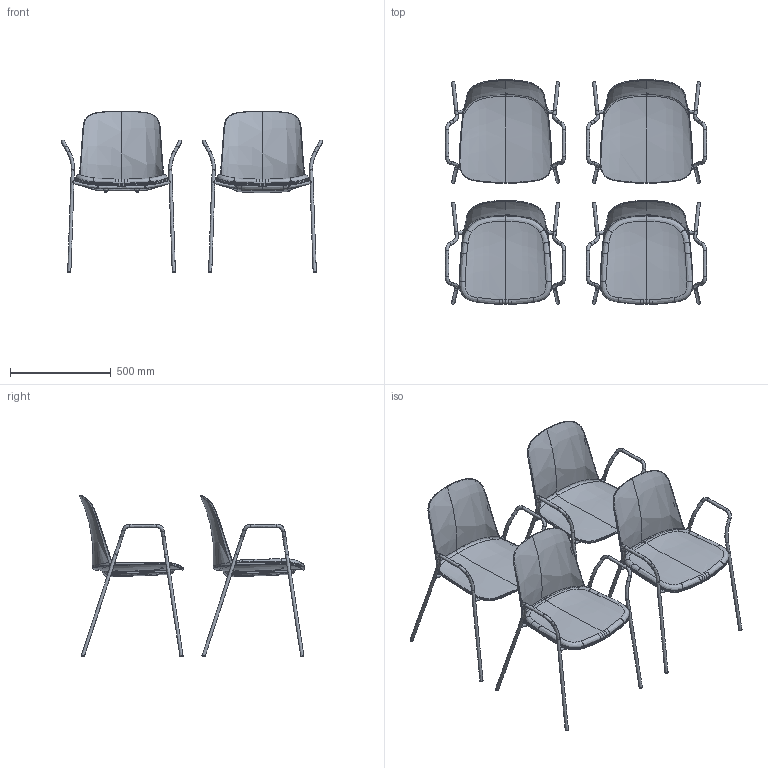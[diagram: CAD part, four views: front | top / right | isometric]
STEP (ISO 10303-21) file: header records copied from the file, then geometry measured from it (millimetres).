
FILE_DESCRIPTION(/* description */ (''),/* implementation_level */ '2;1');
FILE_NAME(/* name */ 'UNIX4G~2',/* time_stamp */ '2025-01-24T13:58:24+01:00',/* author */ (''),/* organization */ (''),/* preprocessor_version */ 'ST-DEVELOPER v16.5',/* originating_system */ '',/* authorisation */ '');
FILE_SCHEMA (('AUTOMOTIVE_DESIGN'));
Products named in the file (1): Document
Bounding box: 1296.86 x 1115.45 x 803.27 mm (x, y, z)
Volume: 12974260.2 mm3; surface area: 5073777.4 mm2
Topology: 24 solids, 83 shells, 2029 faces, 4578 edges, 2647 vertices
Faces by surface type: bspline 1809, plane 220
Entity records: 247414 total; most frequent: CARTESIAN_POINT 221623, ORIENTED_EDGE 8956, EDGE_CURVE 4532, VERTEX_POINT 2640, B_SPLINE_CURVE_WITH_KNOTS 2178, EDGE_LOOP 2108, ADVANCED_FACE 2028, FACE_OUTER_BOUND 2028
